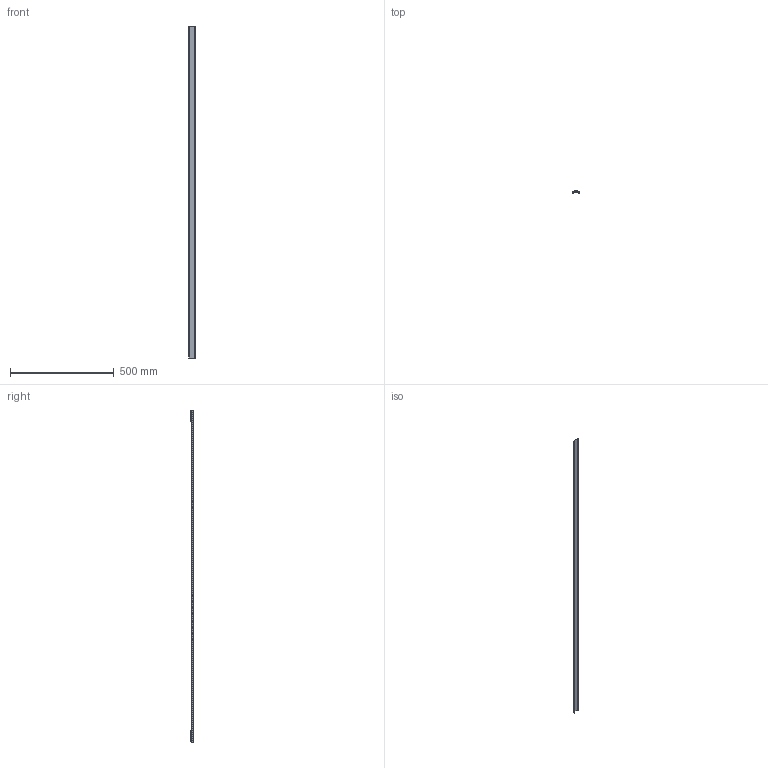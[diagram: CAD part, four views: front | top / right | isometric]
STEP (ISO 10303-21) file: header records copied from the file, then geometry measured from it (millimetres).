
FILE_DESCRIPTION((''),'2;1');
FILE_NAME('16206628_LINEAR-LENS-90GRAD','2015-01-20T',('bernhard.fink'),(''),'PRO/ENGINEER BY PARAMETRIC TECHNOLOGY CORPORATION, 2014000','PRO/ENGINEER BY PARAMETRIC TECHNOLOGY CORPORATION, 2014000','');
FILE_SCHEMA(('AUTOMOTIVE_DESIGN { 1 0 10303 214 1 1 1 1 }'));
Length unit declared in the file: millimetre
Products named in the file (1): 16206628_LINEAR-LENS-90GRAD
Bounding box: 32 x 10.46 x 1600 mm (x, y, z)
Volume: 187692.8 mm3; surface area: 157169.7 mm2
Topology: 1 solids, 1 shells, 28 faces, 78 edges, 52 vertices
Faces by surface type: cylinder 14, plane 13, extrusion 1
Entity records: 1597 total; most frequent: CARTESIAN_POINT 227, DIRECTION 159, ORIENTED_EDGE 156, PRESENTATION_STYLE_ASSIGNMENT 79, STYLED_ITEM 79, CURVE_STYLE 78, EDGE_CURVE 78, COLOUR_RGB 65
